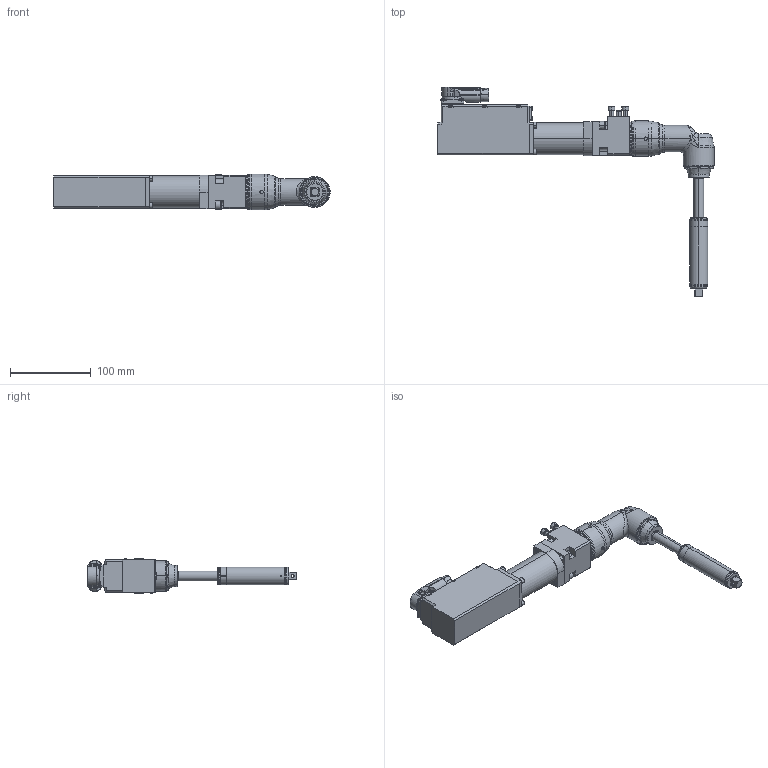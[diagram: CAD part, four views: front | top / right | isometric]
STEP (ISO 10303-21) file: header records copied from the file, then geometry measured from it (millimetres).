
FILE_DESCRIPTION (( 'STEP AP214' ), '1' );
FILE_NAME ('70121615_KSX1058WF50.STEP', '2020-01-15T13:35:19', ( 'admin' ), ( '' ), 'SwSTEP 2.0', 'SolidWorks 2017', '' );
FILE_SCHEMA (( 'AUTOMOTIVE_DESIGN' ));
Length unit declared in the file: millimetre
Products named in the file (11): 70111180_Pos_vorne; 70111180; 70111180_2; 70111000; 70121615_KSX1058WF50; 7002230_3; 70111056; 70111036; 70111007; 70111012; 70111000_KSX1_Stecker_vorne
Assembly tree (10 placements, depth 4):
  70121615_KSX1058WF50
    70111000_KSX1_Stecker_vorne
      70111000
      70111180_Pos_vorne
        70111180_2
        70111180
    70111012
    70111007
    70111036
    70111056
    7002230_3
Bounding box: 341.9 x 258.8 x 44 mm (x, y, z)
Volume: 641763.3 mm3; surface area: 129690 mm2
Topology: 12 solids, 14 shells, 2260 faces, 5780 edges, 3647 vertices
Faces by surface type: cylinder 870, plane 765, cone 366, torus 152, bspline 57, sphere 50
Entity records: 81480 total; most frequent: CARTESIAN_POINT 20118, ORIENTED_EDGE 11408, DIRECTION 10976, EDGE_CURVE 5704, AXIS2_PLACEMENT_3D 4367, VERTEX_POINT 3647, EDGE_LOOP 2471, ADVANCED_FACE 2260
